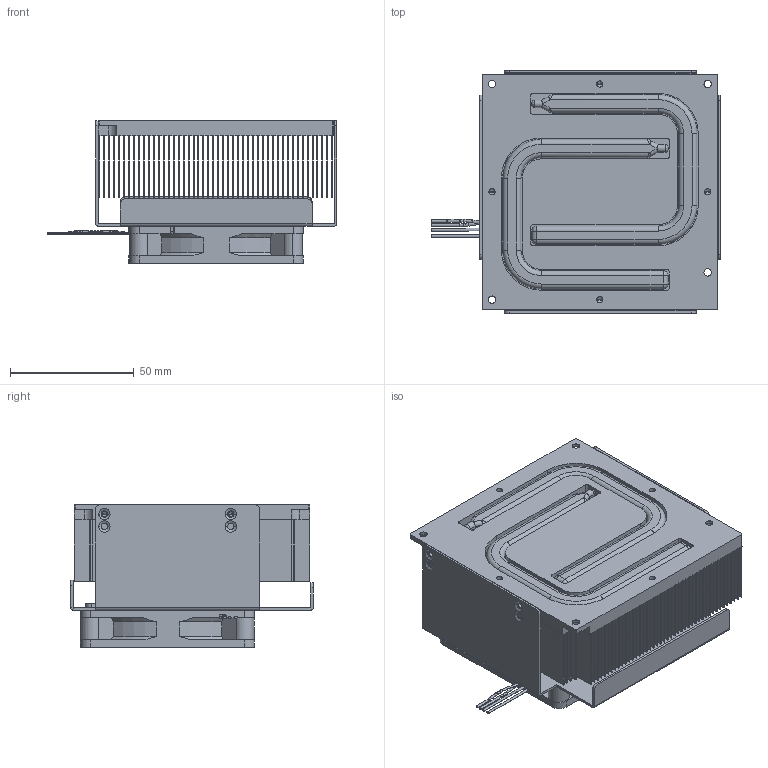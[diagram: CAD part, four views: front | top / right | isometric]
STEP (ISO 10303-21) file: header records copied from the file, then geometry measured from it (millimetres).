
FILE_DESCRIPTION((''),'2;1');
FILE_NAME('ESM-RPLC-WIDE-TEMP_ASM','2025-02-17T18:39:21',('gino_hsu'),(''),'CREO PARAMETRIC BY PTC INC, 2024273','CREO PARAMETRIC BY PTC INC, 2024273','');
FILE_SCHEMA(('CONFIG_CONTROL_DESIGN'));
Length unit declared in the file: millimetre
Products named in the file (5): RPLC-SKIVED_HEATSINK; ESM-FAN-BRACKET; FAN-7015_ASM; ESM-HEATPIPE; ESM-RPLC-WIDE-TEMP_ASM
Assembly tree (5 placements, depth 2):
  ESM-RPLC-WIDE-TEMP_ASM
    RPLC-SKIVED_HEATSINK
    ESM-FAN-BRACKET
    FAN-7015_ASM
    ESM-HEATPIPE  x2
Bounding box: 116.83 x 98 x 57.5 mm (x, y, z)
Volume: 123814.7 mm3; surface area: 302651.2 mm2
Topology: 6 solids, 6 shells, 1131 faces, 3108 edges, 2008 vertices
Faces by surface type: plane 542, cylinder 374, cone 69, torus 50, bspline 50, extrusion 34, revolution 8, sphere 4
Entity records: 43119 total; most frequent: CARTESIAN_POINT 15001, ORIENTED_EDGE 6028, DIRECTION 5678, EDGE_CURVE 3014, AXIS2_PLACEMENT_3D 1981, VERTEX_POINT 1964, VECTOR 1708, LINE 1674
